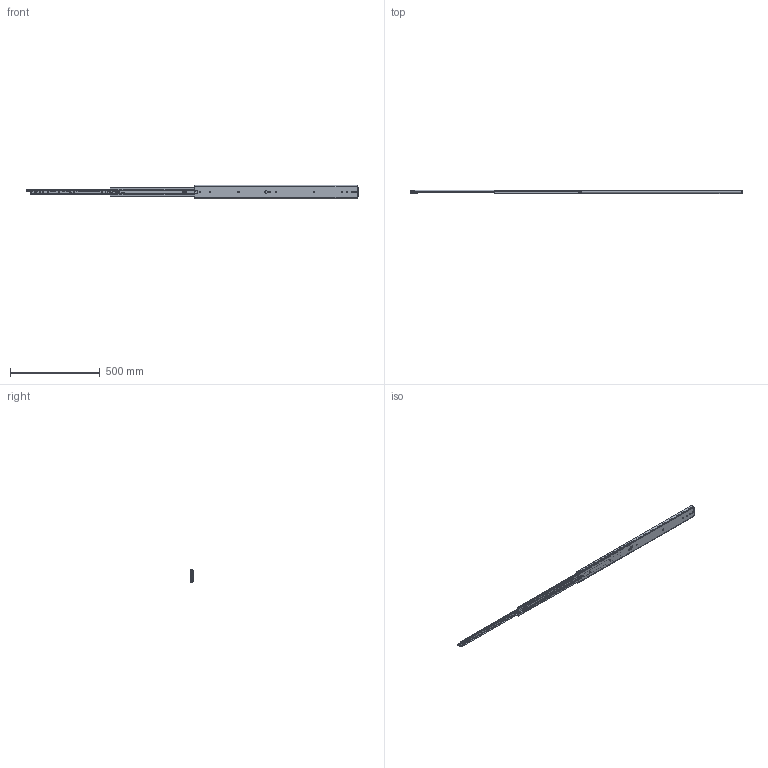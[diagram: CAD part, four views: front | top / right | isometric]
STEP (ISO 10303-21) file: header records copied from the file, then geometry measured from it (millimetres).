
FILE_DESCRIPTION((''),'2;1');
FILE_NAME('DG-76-3S-36YOU_ASM','2023-05-10T',('jishu015'),(''),'PRO/ENGINEER BY PARAMETRIC TECHNOLOGY CORPORATION, 2010280','PRO/ENGINEER BY PARAMETRIC TECHNOLOGY CORPORATION, 2010280','');
FILE_SCHEMA(('CONFIG_CONTROL_DESIGN'));
Products named in the file (29): KP-76-04WAIKE-1816_________; 1076-WAIKEZIDANJIAO16_________; WAIK16__________ASM; 1076XIAOZHUTIAO-22516_________; 16_________; 1076XIAOZHUTIAO-17516__________ASM; KP-76-04ZHONGGUI1816_________; 76CHANGGUIZHONGGUIJIAO1621_; 3X6WODIN16_________; ZHONGGUIBAIKOU16_________; PJ-76-30________; PJ-76-03________; 76-XIAOZHUJIA-11________; GANGZHU-XIAO________; ZHUJIA-XIAO_________ASM; ZHONGGUI6__________ASM; KP-76-04NEIGUI1816_________; PJ-76-31________; DAOGPIAN16_________; 1053-3SBANJ01________; JIAO-11________; 76XINSUOKOU________; PJ-338________; PJ-356________; PJ-357________; PJ-336________; M4X4________; NEIGUI16__________ASM; DG-76-3S-36YOU_ASM
Assembly tree (76 placements, depth 4):
  DG-76-3S-36YOU_ASM
    WAIK16__________ASM
      KP-76-04WAIKE-1816_________
      1076-WAIKEZIDANJIAO16_________  x2
    1076XIAOZHUTIAO-17516__________ASM  x2
      1076XIAOZHUTIAO-22516_________
      16_________
    ZHONGGUI6__________ASM
      KP-76-04ZHONGGUI1816_________
      76CHANGGUIZHONGGUIJIAO1621_
      3X6WODIN16_________
      ZHONGGUIBAIKOU16_________
      PJ-76-30________
      PJ-76-03________
      ZHUJIA-XIAO_________ASM
        76-XIAOZHUJIA-11________
        GANGZHU-XIAO________  x32
    NEIGUI16__________ASM
      KP-76-04NEIGUI1816_________
      PJ-76-31________
      DAOGPIAN16_________
      1053-3SBANJ01________
      JIAO-11________
      76XINSUOKOU________
      PJ-338________
      PJ-356________
      PJ-357________
      PJ-336________
      M4X4________
Bounding box: 1854.72 x 20.6 x 75.3 mm (x, y, z)
Volume: 601523.4 mm3; surface area: 578551.3 mm2
Topology: 88 solids, 88 shells, 2222 faces, 6707 edges, 4248 vertices
Faces by surface type: plane 1143, cylinder 817, sphere 135, bspline 60, cone 28, extrusion 23, torus 16
Entity records: 72247 total; most frequent: CARTESIAN_POINT 19341, ORIENTED_EDGE 11530, DIRECTION 10516, EDGE_CURVE 5765, VERTEX_POINT 3756, AXIS2_PLACEMENT_3D 3618, VECTOR 3280, LINE 3257
